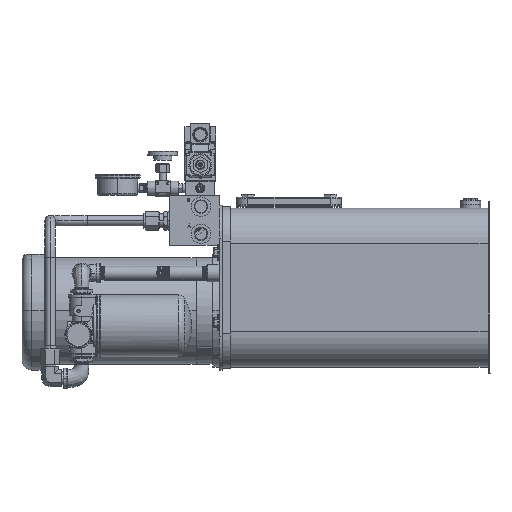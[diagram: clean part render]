
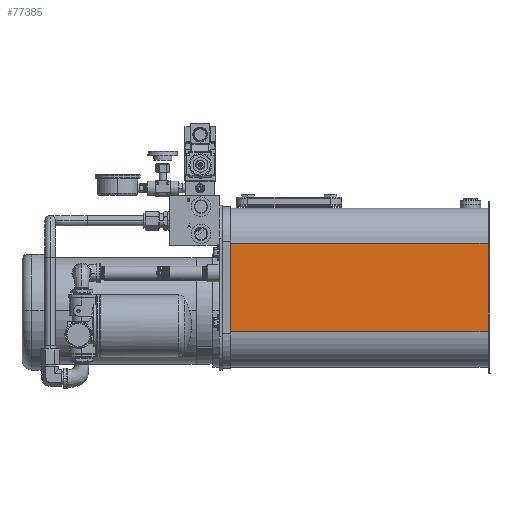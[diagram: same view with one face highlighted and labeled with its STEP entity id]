
A CAD part, top view. The second image highlights one B-rep face of the part: STEP entity #77385.
In plain terms, the highlighted planar face has unit normal (0, 0, 1).
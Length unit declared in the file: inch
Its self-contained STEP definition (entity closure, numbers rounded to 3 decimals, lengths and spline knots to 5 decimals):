
#57 = ORIENTED_EDGE ( 'NONE', *, *, #92679, .F. ) ;
#830 = PLANE ( 'NONE',  #8292 ) ;
#1768 = CARTESIAN_POINT ( 'NONE',  ( 11.99185, 8.33613, 18.13367 ) ) ;
#7266 = DIRECTION ( 'NONE',  ( 0., -1., 0. ) ) ;
#8292 = AXIS2_PLACEMENT_3D ( 'NONE', #167858, #48672, #7266 ) ;
#14701 = CARTESIAN_POINT ( 'NONE',  ( -4.00815, 13.14863, 18.13367 ) ) ;
#27286 = ORIENTED_EDGE ( 'NONE', *, *, #117868, .F. ) ;
#28145 = FACE_OUTER_BOUND ( 'NONE', #48871, .T. ) ;
#33129 = CARTESIAN_POINT ( 'NONE',  ( 11.99185, 5.64323, 18.13367 ) ) ;
#45712 = VERTEX_POINT ( 'NONE', #109578 ) ;
#47770 = VECTOR ( 'NONE', #149563, 39.37008 ) ;
#48672 = DIRECTION ( 'NONE',  ( 0., 0., -1. ) ) ;
#48871 = EDGE_LOOP ( 'NONE', ( #27286, #175240, #57, #159750 ) ) ;
#52292 = LINE ( 'NONE', #56907, #102115 ) ;
#56907 = CARTESIAN_POINT ( 'NONE',  ( -4.00815, 5.64323, 18.13367 ) ) ;
#61413 = DIRECTION ( 'NONE',  ( 0., -1., 0. ) ) ;
#63845 = CARTESIAN_POINT ( 'NONE',  ( -4.00815, 11.02903, 18.13367 ) ) ;
#76525 = CARTESIAN_POINT ( 'NONE',  ( 11.99185, 11.02903, 18.13367 ) ) ;
#77037 = LINE ( 'NONE', #1768, #114672 ) ;
#77385 = ADVANCED_FACE ( 'NONE', ( #28145 ), #830, .F. ) ;
#77682 = EDGE_CURVE ( 'NONE', #45712, #92383, #180086, .T. ) ;
#80219 = VECTOR ( 'NONE', #167398, 39.37008 ) ;
#92383 = VERTEX_POINT ( 'NONE', #76525 ) ;
#92679 = EDGE_CURVE ( 'NONE', #98707, #45712, #104712, .T. ) ;
#96655 = EDGE_CURVE ( 'NONE', #98707, #130508, #52292, .T. ) ;
#98707 = VERTEX_POINT ( 'NONE', #162498 ) ;
#102115 = VECTOR ( 'NONE', #176068, 39.37008 ) ;
#104712 = LINE ( 'NONE', #14701, #47770 ) ;
#109578 = CARTESIAN_POINT ( 'NONE',  ( -4.00815, 11.02903, 18.13367 ) ) ;
#114672 = VECTOR ( 'NONE', #61413, 39.37008 ) ;
#117868 = EDGE_CURVE ( 'NONE', #92383, #130508, #77037, .T. ) ;
#130508 = VERTEX_POINT ( 'NONE', #33129 ) ;
#149563 = DIRECTION ( 'NONE',  ( 0., 1., 0. ) ) ;
#159750 = ORIENTED_EDGE ( 'NONE', *, *, #96655, .T. ) ;
#162498 = CARTESIAN_POINT ( 'NONE',  ( -4.00815, 5.64323, 18.13367 ) ) ;
#167398 = DIRECTION ( 'NONE',  ( 1., 0., 0. ) ) ;
#167858 = CARTESIAN_POINT ( 'NONE',  ( -4.00815, 13.14863, 18.13367 ) ) ;
#175240 = ORIENTED_EDGE ( 'NONE', *, *, #77682, .F. ) ;
#176068 = DIRECTION ( 'NONE',  ( 1., 0., 0. ) ) ;
#180086 = LINE ( 'NONE', #63845, #80219 ) ;
